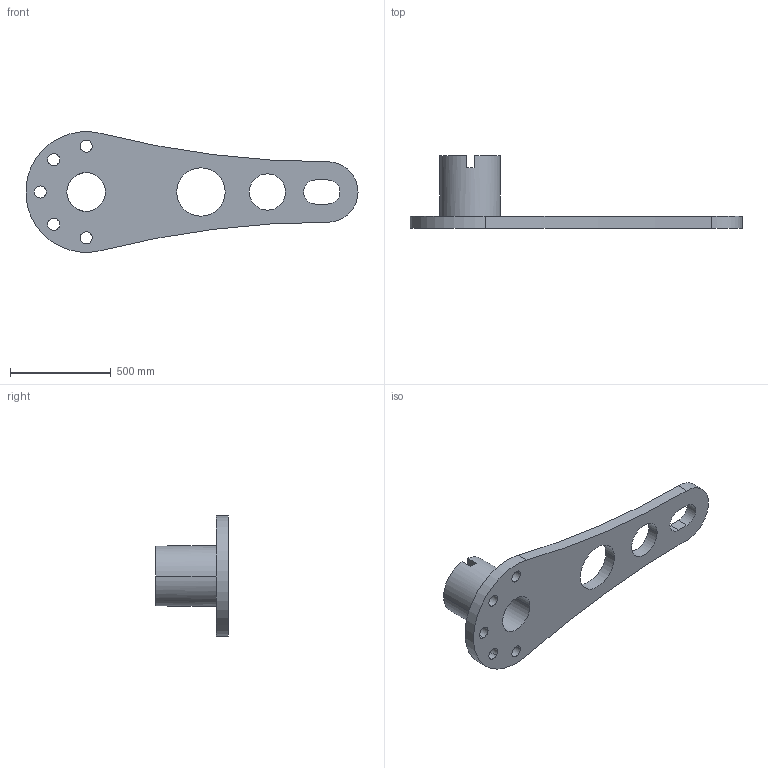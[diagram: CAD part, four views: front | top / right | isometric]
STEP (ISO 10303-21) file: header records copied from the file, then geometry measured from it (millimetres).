
FILE_DESCRIPTION((''),'2;1');
FILE_NAME('KURBEL','2013-07-29T',('nbabel'),(''),'PRO/ENGINEER BY PARAMETRIC TECHNOLOGY CORPORATION, 2009141','PRO/ENGINEER BY PARAMETRIC TECHNOLOGY CORPORATION, 2009141','');
FILE_SCHEMA(('AUTOMOTIVE_DESIGN_CC2 { 1 2 10303 214 -1 1 5 2 }'));
Length unit declared in the file: millimetre
Products named in the file (1): KURBEL
Bounding box: 1648.87 x 360 x 598.29 mm (x, y, z)
Volume: 44128897.8 mm3; surface area: 1961553.8 mm2
Topology: 1 solids, 1 shells, 36 faces, 102 edges, 68 vertices
Faces by surface type: cylinder 24, plane 12
Entity records: 1268 total; most frequent: DIRECTION 230, CARTESIAN_POINT 206, ORIENTED_EDGE 204, EDGE_CURVE 102, AXIS2_PLACEMENT_3D 92, VERTEX_POINT 68, CIRCLE 56, EDGE_LOOP 54
